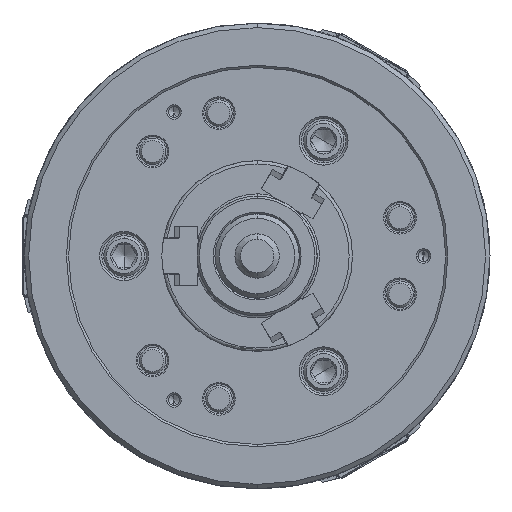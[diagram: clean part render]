
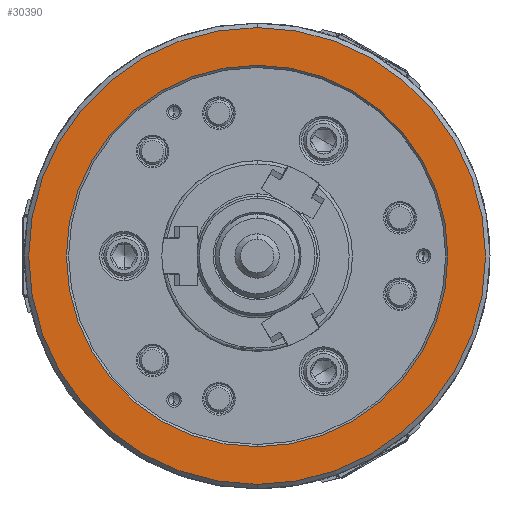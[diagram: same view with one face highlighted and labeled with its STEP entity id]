
A CAD part, left-side view. The second image highlights one B-rep face of the part: STEP entity #30390.
In plain terms, the highlighted planar face has unit normal (-1, 0, 0).
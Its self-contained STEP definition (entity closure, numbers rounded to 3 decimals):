
#7242 = CIRCLE ( 'NONE', #63130, 86. ) ;
#7312 = DIRECTION ( 'NONE',  ( 0., 0., -1. ) ) ;
#8988 = PLANE ( 'NONE',  #79729 ) ;
#11941 = CARTESIAN_POINT ( 'NONE',  ( -85., 0., 103. ) ) ;
#12418 = CIRCLE ( 'NONE', #52596, 103. ) ;
#13361 = EDGE_CURVE ( 'NONE', #51705, #37564, #12418, .T. ) ;
#13976 = CIRCLE ( 'NONE', #76826, 86. ) ;
#15509 = DIRECTION ( 'NONE',  ( 1., 0., 0. ) ) ;
#23124 = VERTEX_POINT ( 'NONE', #68492 ) ;
#26356 = CARTESIAN_POINT ( 'NONE',  ( -85., 0., 86. ) ) ;
#29531 = CARTESIAN_POINT ( 'NONE',  ( -85., 0., 0. ) ) ;
#30390 = ADVANCED_FACE ( 'NONE', ( #40724, #66400 ), #8988, .F. ) ;
#32997 = CARTESIAN_POINT ( 'NONE',  ( -85., 0., 0. ) ) ;
#35097 = EDGE_CURVE ( 'NONE', #94007, #23124, #13976, .T. ) ;
#37564 = VERTEX_POINT ( 'NONE', #55684 ) ;
#40724 = FACE_OUTER_BOUND ( 'NONE', #75946, .T. ) ;
#47823 = AXIS2_PLACEMENT_3D ( 'NONE', #29531, #80894, #89082 ) ;
#51705 = VERTEX_POINT ( 'NONE', #11941 ) ;
#52596 = AXIS2_PLACEMENT_3D ( 'NONE', #98635, #15509, #7312 ) ;
#55684 = CARTESIAN_POINT ( 'NONE',  ( -85., 0., -103. ) ) ;
#59293 = DIRECTION ( 'NONE',  ( 1., 0., 0. ) ) ;
#63130 = AXIS2_PLACEMENT_3D ( 'NONE', #92342, #74304, #98925 ) ;
#66400 = FACE_BOUND ( 'NONE', #94383, .T. ) ;
#66818 = ORIENTED_EDGE ( 'NONE', *, *, #13361, .F. ) ;
#66954 = DIRECTION ( 'NONE',  ( 0., 0., -1. ) ) ;
#68492 = CARTESIAN_POINT ( 'NONE',  ( -85., 0., -86. ) ) ;
#72636 = ORIENTED_EDGE ( 'NONE', *, *, #73683, .F. ) ;
#73683 = EDGE_CURVE ( 'NONE', #37564, #51705, #98501, .T. ) ;
#74304 = DIRECTION ( 'NONE',  ( 1., 0., 0. ) ) ;
#75946 = EDGE_LOOP ( 'NONE', ( #72636, #66818 ) ) ;
#76826 = AXIS2_PLACEMENT_3D ( 'NONE', #32997, #92604, #100271 ) ;
#79729 = AXIS2_PLACEMENT_3D ( 'NONE', #99743, #59293, #66954 ) ;
#80831 = ORIENTED_EDGE ( 'NONE', *, *, #35097, .T. ) ;
#80894 = DIRECTION ( 'NONE',  ( 1., 0., 0. ) ) ;
#80959 = ORIENTED_EDGE ( 'NONE', *, *, #81592, .T. ) ;
#81592 = EDGE_CURVE ( 'NONE', #23124, #94007, #7242, .T. ) ;
#89082 = DIRECTION ( 'NONE',  ( 0., 0., -1. ) ) ;
#92342 = CARTESIAN_POINT ( 'NONE',  ( -85., 0., 0. ) ) ;
#92604 = DIRECTION ( 'NONE',  ( 1., 0., 0. ) ) ;
#94007 = VERTEX_POINT ( 'NONE', #26356 ) ;
#94383 = EDGE_LOOP ( 'NONE', ( #80831, #80959 ) ) ;
#98501 = CIRCLE ( 'NONE', #47823, 103. ) ;
#98635 = CARTESIAN_POINT ( 'NONE',  ( -85., 0., 0. ) ) ;
#98925 = DIRECTION ( 'NONE',  ( 0., 0., -1. ) ) ;
#99743 = CARTESIAN_POINT ( 'NONE',  ( -85., -103., 0. ) ) ;
#100271 = DIRECTION ( 'NONE',  ( 0., 0., -1. ) ) ;
